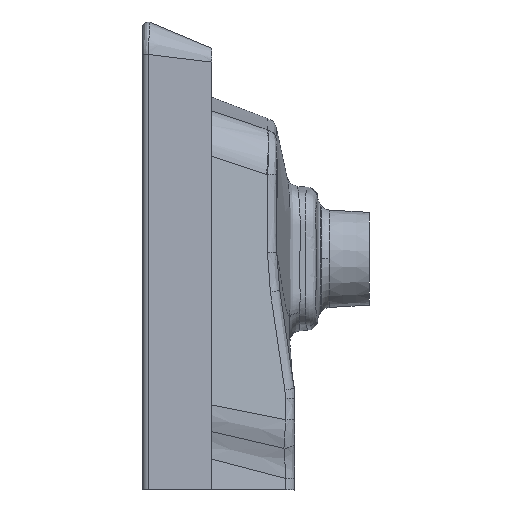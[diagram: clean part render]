
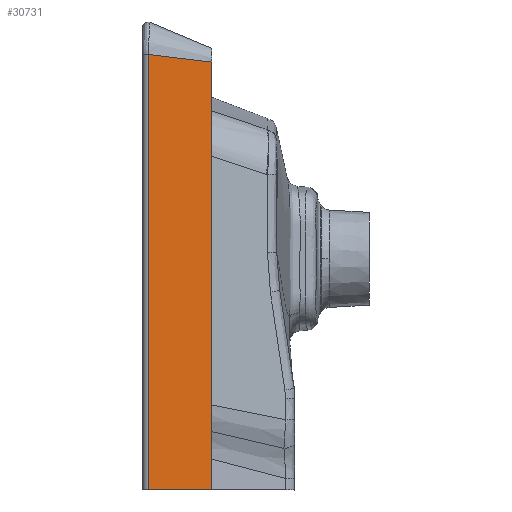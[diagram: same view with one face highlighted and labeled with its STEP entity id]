
A CAD part, left-side view. The second image highlights one B-rep face of the part: STEP entity #30731.
In plain terms, the highlighted planar face has unit normal (-0.998, -0.06, 0).
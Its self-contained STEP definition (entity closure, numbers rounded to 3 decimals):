
#1674 = DIRECTION ( 'NONE',  ( 0., 0., -1. ) ) ;
#1793 = EDGE_CURVE ( 'NONE', #11592, #36993, #11108, .T. ) ;
#4090 = CARTESIAN_POINT ( 'NONE',  ( -297., -50., -170. ) ) ;
#4551 = CARTESIAN_POINT ( 'NONE',  ( -293.455, -109.075, 147.094 ) ) ;
#6157 = EDGE_LOOP ( 'NONE', ( #25150, #8478, #17008, #27581 ) ) ;
#6873 = DIRECTION ( 'NONE',  ( 0., 0., -1. ) ) ;
#7296 = CARTESIAN_POINT ( 'NONE',  ( -297., -50., -10.5 ) ) ;
#7986 = VERTEX_POINT ( 'NONE', #26153 ) ;
#8361 = PLANE ( 'NONE',  #9405 ) ;
#8478 = ORIENTED_EDGE ( 'NONE', *, *, #34266, .T. ) ;
#9405 = AXIS2_PLACEMENT_3D ( 'NONE', #4551, #23205, #19801 ) ;
#11047 = VECTOR ( 'NONE', #1674, 1000. ) ;
#11108 = LINE ( 'NONE', #4090, #39306 ) ;
#11592 = VERTEX_POINT ( 'NONE', #13399 ) ;
#13399 = CARTESIAN_POINT ( 'NONE',  ( -297., -50., -170. ) ) ;
#14204 = EDGE_CURVE ( 'NONE', #16021, #11592, #19525, .T. ) ;
#15031 = CARTESIAN_POINT ( 'NONE',  ( -297., -50., 139. ) ) ;
#15823 = CARTESIAN_POINT ( 'NONE',  ( -297., -50., 139. ) ) ;
#16021 = VERTEX_POINT ( 'NONE', #15031 ) ;
#16102 = CARTESIAN_POINT ( 'NONE',  ( -299.746, -4.24, 147.094 ) ) ;
#16610 = LINE ( 'NONE', #15823, #26446 ) ;
#17008 = ORIENTED_EDGE ( 'NONE', *, *, #1793, .F. ) ;
#19525 = LINE ( 'NONE', #7296, #11047 ) ;
#19801 = DIRECTION ( 'NONE',  ( -0.059, 0.977, 0.205 ) ) ;
#19982 = CARTESIAN_POINT ( 'NONE',  ( -299.746, -4.24, -170. ) ) ;
#23205 = DIRECTION ( 'NONE',  ( -0.998, -0.06, 0. ) ) ;
#25150 = ORIENTED_EDGE ( 'NONE', *, *, #35835, .T. ) ;
#25948 = DIRECTION ( 'NONE',  ( -0.06, 0.998, 0. ) ) ;
#26153 = CARTESIAN_POINT ( 'NONE',  ( -299.746, -4.24, 144.491 ) ) ;
#26446 = VECTOR ( 'NONE', #28252, 1000. ) ;
#27581 = ORIENTED_EDGE ( 'NONE', *, *, #14204, .F. ) ;
#28252 = DIRECTION ( 'NONE',  ( -0.059, 0.991, 0.119 ) ) ;
#30731 = ADVANCED_FACE ( 'NONE', ( #35241 ), #8361, .T. ) ;
#34266 = EDGE_CURVE ( 'NONE', #7986, #36993, #37549, .T. ) ;
#35241 = FACE_OUTER_BOUND ( 'NONE', #6157, .T. ) ;
#35835 = EDGE_CURVE ( 'NONE', #16021, #7986, #16610, .T. ) ;
#36993 = VERTEX_POINT ( 'NONE', #19982 ) ;
#37549 = LINE ( 'NONE', #16102, #39332 ) ;
#39306 = VECTOR ( 'NONE', #25948, 1000. ) ;
#39332 = VECTOR ( 'NONE', #6873, 1000. ) ;
